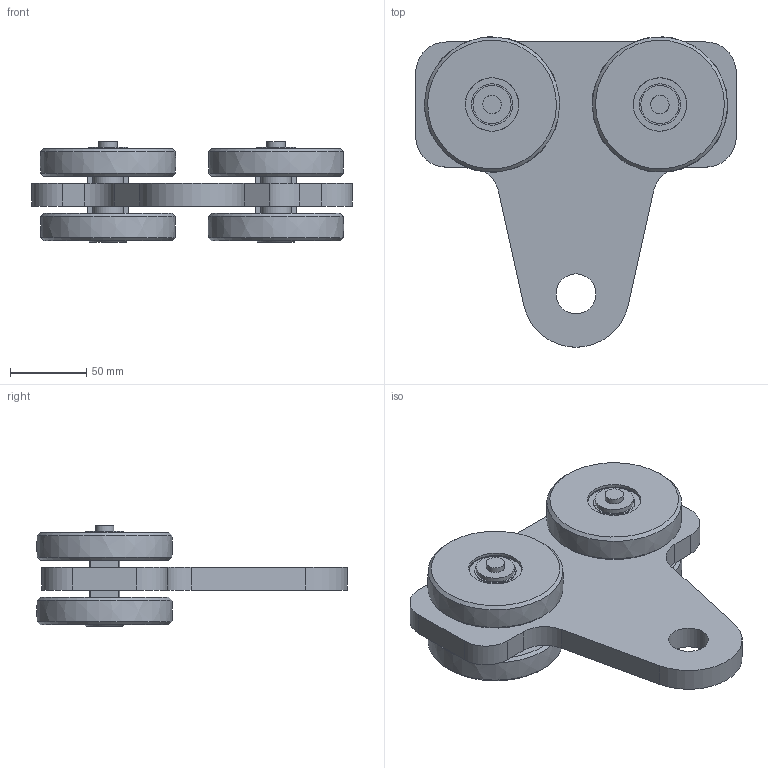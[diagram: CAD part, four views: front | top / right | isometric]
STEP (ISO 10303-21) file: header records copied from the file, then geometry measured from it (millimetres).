
FILE_DESCRIPTION(/* description */ ('Brennteil'),/* implementation_level */ '2;1');
FILE_NAME(/* name */ 'Q:\sge-ma\Produktmanagement-STB\STB\Workspace\stp\010336843.stp',/* time_stamp */ '2016-07-14T11:00:25+02:00',/* author */ ('avschreier'),/* organization */ (''),/* preprocessor_version */ 'ST-DEVELOPER v16.1',/* originating_system */ 'Autodesk Inventor 2016',/* authorisation */ '');
FILE_SCHEMA (('AUTOMOTIVE_DESIGN { 1 0 10303 214 3 1 1 }'));
Length unit declared in the file: millimetre
Products named in the file (8): 000302092; 000302113; 000302023; 337000284; DIN_625-6004_ZZ_en; 000302024; DIN_1440-12_en; 010336843
Assembly tree (19 placements, depth 3):
  010336843
    000302092
    000302113  x8
    000302023  x2
    000302024  x4
      337000284
      DIN_625-6004_ZZ_en
    DIN_1440-12_en  x2
Bounding box: 210 x 203.45 x 66 mm (x, y, z)
Volume: 778987.4 mm3; surface area: 183566.6 mm2
Topology: 21 solids, 25 shells, 393 faces, 1080 edges, 713 vertices
Faces by surface type: plane 189, cylinder 78, torus 72, sphere 28, cone 22, bspline 4
Full cylindrical faces by diameter (mm): 12 x4, 19.9 x2, 20 x4, 25 x2, 26 x2, 26.2 x1, 27.04 x16, 34.96 x16, 35 x4, 42 x8
Entity records: 4285 total; most frequent: CARTESIAN_POINT 1359, DIRECTION 584, ORIENTED_EDGE 518, EDGE_CURVE 259, AXIS2_PLACEMENT_3D 241, VERTEX_POINT 188, EDGE_LOOP 173, ADVANCED_FACE 115
